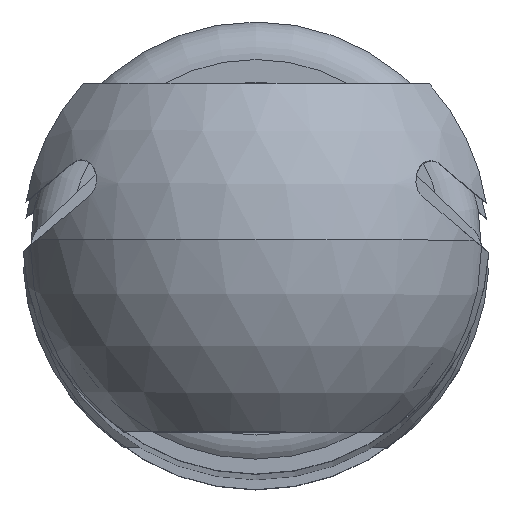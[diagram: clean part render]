
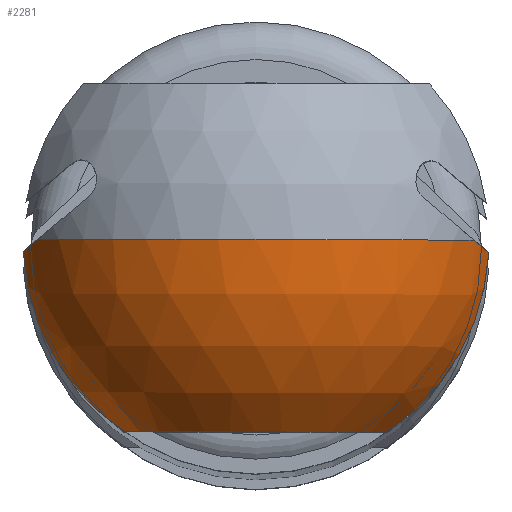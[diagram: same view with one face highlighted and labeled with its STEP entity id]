
A CAD part, top view. The second image highlights one B-rep face of the part: STEP entity #2281.
In plain terms, the highlighted spherical face has radius 8.25 mm.
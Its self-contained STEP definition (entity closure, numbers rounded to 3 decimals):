
#161 = SPHERICAL_SURFACE ( 'NONE', #3077, 8.25 ) ;
#235 = FACE_OUTER_BOUND ( 'NONE', #882, .T. ) ;
#465 = VERTEX_POINT ( 'NONE', #1434 ) ;
#483 = VERTEX_POINT ( 'NONE', #1496 ) ;
#568 = VERTEX_POINT ( 'NONE', #1538 ) ;
#634 = VERTEX_POINT ( 'NONE', #1522 ) ;
#698 = VERTEX_POINT ( 'NONE', #1462 ) ;
#757 = VERTEX_POINT ( 'NONE', #1533 ) ;
#784 = VERTEX_POINT ( 'NONE', #1582 ) ;
#882 = EDGE_LOOP ( 'NONE', ( #1152, #1147, #1145, #1004, #1043, #1061, #1059 ) ) ;
#1004 = ORIENTED_EDGE ( 'NONE', *, *, #2306, .T. ) ;
#1043 = ORIENTED_EDGE ( 'NONE', *, *, #2276, .T. ) ;
#1059 = ORIENTED_EDGE ( 'NONE', *, *, #2307, .T. ) ;
#1061 = ORIENTED_EDGE ( 'NONE', *, *, #2205, .T. ) ;
#1145 = ORIENTED_EDGE ( 'NONE', *, *, #2278, .T. ) ;
#1147 = ORIENTED_EDGE ( 'NONE', *, *, #4391, .T. ) ;
#1152 = ORIENTED_EDGE ( 'NONE', *, *, #4393, .F. ) ;
#1347 = DIRECTION ( 'NONE',  ( -1., 0., 0. ) ) ;
#1348 = CARTESIAN_POINT ( 'NONE',  ( -72.8, 0., 0. ) ) ;
#1351 = DIRECTION ( 'NONE',  ( 0., 0., -1. ) ) ;
#1434 = CARTESIAN_POINT ( 'NONE',  ( -73.921, 7.259, 0. ) ) ;
#1462 = CARTESIAN_POINT ( 'NONE',  ( -72.8, 7.749, 0.412 ) ) ;
#1496 = CARTESIAN_POINT ( 'NONE',  ( -73.921, -7.259, 0. ) ) ;
#1522 = CARTESIAN_POINT ( 'NONE',  ( -78.25, 0., 0. ) ) ;
#1533 = CARTESIAN_POINT ( 'NONE',  ( -72.8, -7.749, 0.412 ) ) ;
#1538 = CARTESIAN_POINT ( 'NONE',  ( -72.8, 4.389, 6.4 ) ) ;
#1582 = CARTESIAN_POINT ( 'NONE',  ( -72.8, -4.389, 6.4 ) ) ;
#1777 = DIRECTION ( 'NONE',  ( 0., -0.766, -0.643 ) ) ;
#1778 = DIRECTION ( 'NONE',  ( 0., -0.643, 0.766 ) ) ;
#1779 = CARTESIAN_POINT ( 'NONE',  ( -70., 2.999, -3.574 ) ) ;
#1780 = DIRECTION ( 'NONE',  ( 0., 0., -1. ) ) ;
#1781 = DIRECTION ( 'NONE',  ( -1., 0., 0. ) ) ;
#1782 = CARTESIAN_POINT ( 'NONE',  ( -72.8, 0., 0. ) ) ;
#2073 = DIRECTION ( 'NONE',  ( 0., -1., 0. ) ) ;
#2074 = DIRECTION ( 'NONE',  ( 0., 0., -1. ) ) ;
#2079 = CARTESIAN_POINT ( 'NONE',  ( -70., 0., 0. ) ) ;
#2120 = DIRECTION ( 'NONE',  ( 0., -0.766, 0.643 ) ) ;
#2123 = DIRECTION ( 'NONE',  ( 0., 0.643, 0.766 ) ) ;
#2125 = CARTESIAN_POINT ( 'NONE',  ( -70., -2.999, -3.574 ) ) ;
#2130 = DIRECTION ( 'NONE',  ( 1., 0., 0. ) ) ;
#2131 = DIRECTION ( 'NONE',  ( 0., 0., -1. ) ) ;
#2132 = CARTESIAN_POINT ( 'NONE',  ( -70., 0., 6.4 ) ) ;
#2205 = EDGE_CURVE ( 'NONE', #568, #698, #3257, .T. ) ;
#2276 = EDGE_CURVE ( 'NONE', #784, #568, #3121, .T. ) ;
#2278 = EDGE_CURVE ( 'NONE', #483, #757, #2998, .T. ) ;
#2281 = ADVANCED_FACE ( 'NONE', ( #235 ), #161, .T. ) ;
#2306 = EDGE_CURVE ( 'NONE', #757, #784, #3088, .T. ) ;
#2307 = EDGE_CURVE ( 'NONE', #698, #465, #3084, .T. ) ;
#2998 = CIRCLE ( 'NONE', #3052, 6.804 ) ;
#3032 = AXIS2_PLACEMENT_3D ( 'NONE', #2132, #2131, #2130 ) ;
#3052 = AXIS2_PLACEMENT_3D ( 'NONE', #2125, #2123, #2120 ) ;
#3062 = AXIS2_PLACEMENT_3D ( 'NONE', #1779, #1778, #1777 ) ;
#3077 = AXIS2_PLACEMENT_3D ( 'NONE', #2079, #2074, #2073 ) ;
#3084 = CIRCLE ( 'NONE', #3062, 6.804 ) ;
#3088 = CIRCLE ( 'NONE', #3111, 7.76 ) ;
#3111 = AXIS2_PLACEMENT_3D ( 'NONE', #1782, #1781, #1780 ) ;
#3121 = CIRCLE ( 'NONE', #3032, 5.206 ) ;
#3257 = CIRCLE ( 'NONE', #3277, 7.76 ) ;
#3277 = AXIS2_PLACEMENT_3D ( 'NONE', #1348, #1347, #1351 ) ;
#4122 = AXIS2_PLACEMENT_3D ( 'NONE', #4756, #4757, #4758 ) ;
#4146 = AXIS2_PLACEMENT_3D ( 'NONE', #4750, #4751, #4752 ) ;
#4151 = CIRCLE ( 'NONE', #4146, 8.25 ) ;
#4193 = CIRCLE ( 'NONE', #4122, 8.25 ) ;
#4391 = EDGE_CURVE ( 'NONE', #634, #483, #4151, .T. ) ;
#4393 = EDGE_CURVE ( 'NONE', #634, #465, #4193, .T. ) ;
#4750 = CARTESIAN_POINT ( 'NONE',  ( -70., 0., 0. ) ) ;
#4751 = DIRECTION ( 'NONE',  ( 0., 0., 1. ) ) ;
#4752 = DIRECTION ( 'NONE',  ( 1., 0., 0. ) ) ;
#4756 = CARTESIAN_POINT ( 'NONE',  ( -70., 0., 0. ) ) ;
#4757 = DIRECTION ( 'NONE',  ( 0., 0., -1. ) ) ;
#4758 = DIRECTION ( 'NONE',  ( -1., 0., 0. ) ) ;
